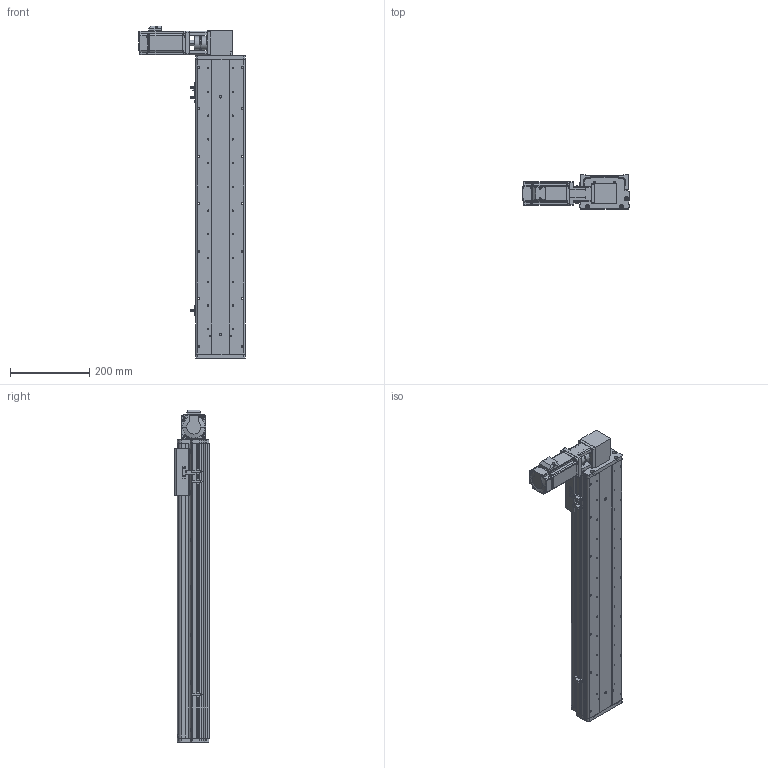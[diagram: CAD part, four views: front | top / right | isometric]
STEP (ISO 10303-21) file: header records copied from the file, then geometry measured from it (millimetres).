
FILE_DESCRIPTION (( 'STEP AP214' ), '1' );
FILE_NAME ('KSD125B-S550-MRT-CM.STEP', '2017-08-07T07:24:40', ( '微软用户' ), ( '微软中国' ), 'SwSTEP 2.0', 'SolidWorks 2014', '' );
FILE_SCHEMA (( 'AUTOMOTIVE_DESIGN' ));
Length unit declared in the file: millimetre
Products named in the file (16): KSD125模组同步带-防撞垫1; 100宽安装板同步带带电机座400W,86; 100宽马达安装板同步带右; 前端板-125宽模组同步带; 125模组同步带-尾端板1; KSD125模组同步带-滑动座1; KSD125B-S550-MRT-CM; MHMD042G1CA_2_03; KSD125模组550行程同步带-防尘盖; 125模组550行程同步带-底板; KSD125模组同步带-防撞垫2; CS-34X32-10X14; 100遵鎮湛假蚾啣1 ; 覜茼え68遵圉猾敕; U倰嫖萇假蚾璃; U倰嫖萇EEㄜSX672
Assembly tree (19 placements, depth 2):
  KSD125B-S550-MRT-CM
    KSD125模组同步带-滑动座1
    125模组同步带-尾端板1
    前端板-125宽模组同步带
    100宽马达安装板同步带右
    100宽安装板同步带带电机座400W,86
    KSD125模组同步带-防撞垫1
    U倰嫖萇EEㄜSX672  x3
    U倰嫖萇假蚾璃  x3
    覜茼え68遵圉猾敕
    100遵鎮湛假蚾啣1 
    CS-34X32-10X14
    KSD125模组同步带-防撞垫2
    125模组550行程同步带-底板
    KSD125模组550行程同步带-防尘盖
    MHMD042G1CA_2_03
Bounding box: 269 x 86 x 839 mm (x, y, z)
Volume: 2707390.6 mm3; surface area: 909945.2 mm2
Topology: 18 solids, 21 shells, 1656 faces, 4744 edges, 3128 vertices
Faces by surface type: cylinder 853, plane 700, cone 81, bspline 22
Entity records: 57984 total; most frequent: CARTESIAN_POINT 11762, DIRECTION 8479, ORIENTED_EDGE 8008, EDGE_CURVE 4082, AXIS2_PLACEMENT_3D 3141, VERTEX_POINT 2720, LINE 2197, VECTOR 2197
